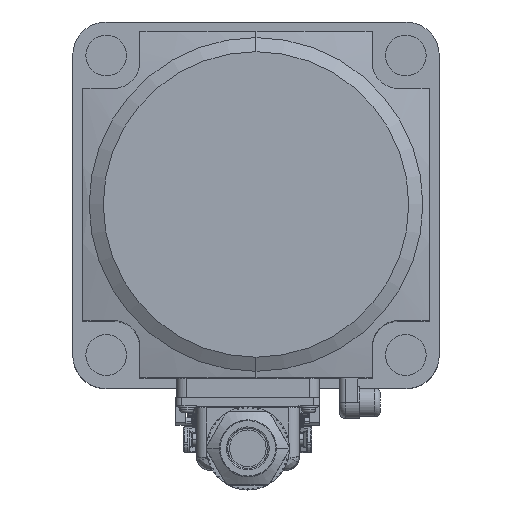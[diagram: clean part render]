
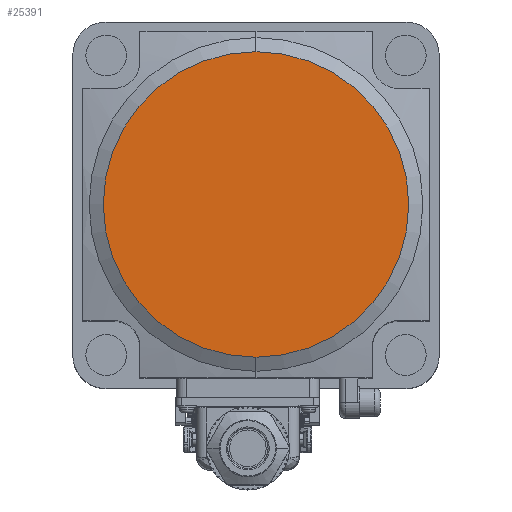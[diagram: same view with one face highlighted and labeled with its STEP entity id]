
A CAD part, top view. The second image highlights one B-rep face of the part: STEP entity #25391.
In plain terms, the highlighted planar face has unit normal (0, 0, 1).
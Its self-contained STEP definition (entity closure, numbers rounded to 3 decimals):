
#3101 = DIRECTION ( 'NONE',  ( 0., 0., -1. ) ) ;
#4793 = ORIENTED_EDGE ( 'NONE', *, *, #14202, .F. ) ;
#10132 = CARTESIAN_POINT ( 'NONE',  ( 0., 37.5, 125.5 ) ) ;
#11197 = VERTEX_POINT ( 'NONE', #21554 ) ;
#11518 = FACE_OUTER_BOUND ( 'NONE', #12264, .T. ) ;
#12264 = EDGE_LOOP ( 'NONE', ( #31985, #4793 ) ) ;
#14202 = EDGE_CURVE ( 'NONE', #11197, #30852, #37633, .T. ) ;
#14600 = CARTESIAN_POINT ( 'NONE',  ( 42.5, -42.5, 125.5 ) ) ;
#14933 = DIRECTION ( 'NONE',  ( 0., 1., 0. ) ) ;
#20480 = DIRECTION ( 'NONE',  ( -1., 0., 0. ) ) ;
#21554 = CARTESIAN_POINT ( 'NONE',  ( 0., -37.5, 125.5 ) ) ;
#21673 = CIRCLE ( 'NONE', #31999, 37.5 ) ;
#23240 = DIRECTION ( 'NONE',  ( 0., 0., -1. ) ) ;
#23496 = CARTESIAN_POINT ( 'NONE',  ( 0., 0., 125.5 ) ) ;
#24269 = DIRECTION ( 'NONE',  ( 0., 0., -1. ) ) ;
#25391 = ADVANCED_FACE ( 'NONE', ( #11518 ), #37464, .F. ) ;
#26291 = DIRECTION ( 'NONE',  ( 0., 1., 0. ) ) ;
#29158 = CARTESIAN_POINT ( 'NONE',  ( 0., 0., 125.5 ) ) ;
#30452 = EDGE_CURVE ( 'NONE', #30852, #11197, #21673, .T. ) ;
#30743 = AXIS2_PLACEMENT_3D ( 'NONE', #14600, #3101, #20480 ) ;
#30852 = VERTEX_POINT ( 'NONE', #10132 ) ;
#31985 = ORIENTED_EDGE ( 'NONE', *, *, #30452, .F. ) ;
#31999 = AXIS2_PLACEMENT_3D ( 'NONE', #29158, #23240, #26291 ) ;
#33974 = AXIS2_PLACEMENT_3D ( 'NONE', #23496, #24269, #14933 ) ;
#37464 = PLANE ( 'NONE',  #30743 ) ;
#37633 = CIRCLE ( 'NONE', #33974, 37.5 ) ;
